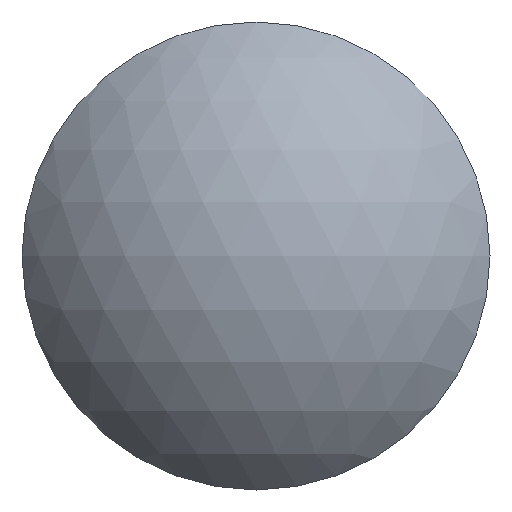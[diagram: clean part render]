
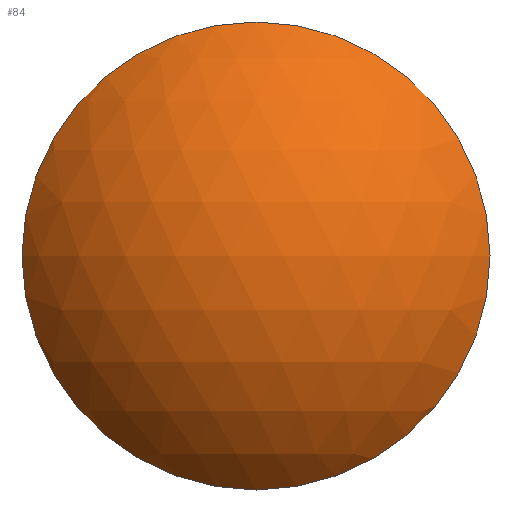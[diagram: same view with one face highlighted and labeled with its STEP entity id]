
A CAD part, front view. The second image highlights one B-rep face of the part: STEP entity #84.
In plain terms, the highlighted spherical face has radius 15.57 mm.
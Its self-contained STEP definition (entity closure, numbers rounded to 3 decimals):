
#68=CARTESIAN_POINT('',(0.0,7.27,0.0));
#69=DIRECTION('',(0.0,0.0,1.0));
#70=DIRECTION('',(1.0,0.0,0.0));
#71=AXIS2_PLACEMENT_3D('',#68,#69,#70);
#72=SPHERICAL_SURFACE('',#71,15.57);
#73=CARTESIAN_POINT('',(-12.5,-2.013,0.0));
#74=VERTEX_POINT('',#73);
#75=CARTESIAN_POINT('',(0.0,-2.013,0.0));
#76=DIRECTION('',(0.0,1.0,0.0));
#77=DIRECTION('',(-1.0,0.0,0.0));
#78=AXIS2_PLACEMENT_3D('',#75,#76,#77);
#79=CIRCLE('',#78,12.5);
#80=EDGE_CURVE('',#74,#74,#79,.T.);
#81=ORIENTED_EDGE('',*,*,#80,.F.);
#82=EDGE_LOOP('',(#81));
#83=FACE_OUTER_BOUND('',#82,.T.);
#84=ADVANCED_FACE('',(#83),#72,.T.);
